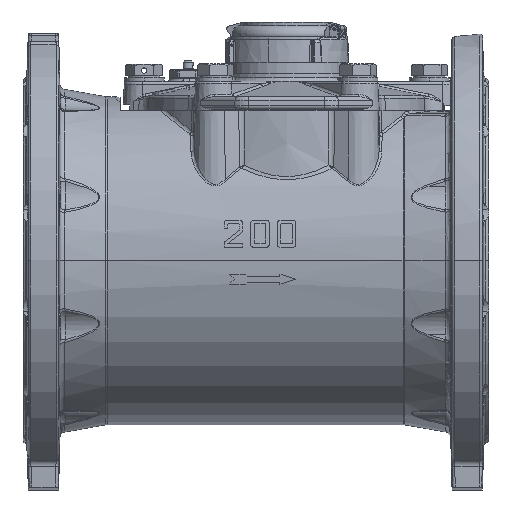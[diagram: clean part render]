
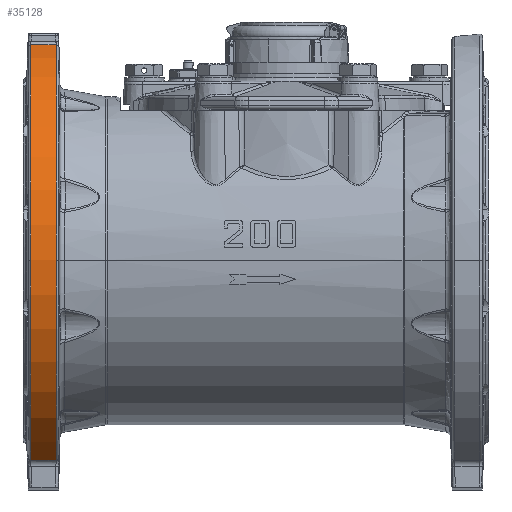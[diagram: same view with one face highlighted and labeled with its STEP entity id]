
A CAD part, top view. The second image highlights one B-rep face of the part: STEP entity #35128.
In plain terms, the highlighted cylindrical face has radius 170 mm (diameter 340 mm), a partial arc.
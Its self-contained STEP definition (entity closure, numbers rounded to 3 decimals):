
#25807 = VERTEX_POINT ( 'NONE', #42924 ) ;
#25809 = VERTEX_POINT ( 'NONE', #42925 ) ;
#25999 = ORIENTED_EDGE ( 'NONE', *, *, #34764, .T. ) ;
#26000 = ORIENTED_EDGE ( 'NONE', *, *, #65392, .T. ) ;
#26001 = ORIENTED_EDGE ( 'NONE', *, *, #34763, .T. ) ;
#26002 = ORIENTED_EDGE ( 'NONE', *, *, #34765, .T. ) ;
#26003 = ORIENTED_EDGE ( 'NONE', *, *, #65397, .T. ) ;
#26004 = ORIENTED_EDGE ( 'NONE', *, *, #34766, .F. ) ;
#34763 = EDGE_CURVE ( 'NONE', #65670, #25809, #47390, .T. ) ;
#34764 = EDGE_CURVE ( 'NONE', #25809, #25807, #74458, .T. ) ;
#34765 = EDGE_CURVE ( 'NONE', #25807, #65676, #47396, .T. ) ;
#34766 = EDGE_CURVE ( 'NONE', #65669, #65675, #74460, .T. ) ;
#35128 = ADVANCED_FACE ( 'NONE', ( #74930 ), #74931, .T. ) ;
#42924 = CARTESIAN_POINT ( 'NONE',  ( -191.95, 161.826, 52.081 ) ) ;
#42925 = CARTESIAN_POINT ( 'NONE',  ( -173.017, 161.826, 52.081 ) ) ;
#47390 = CIRCLE ( 'NONE', #47394, 170. ) ;
#47394 = AXIS2_PLACEMENT_3D ( 'NONE', #48000, #48001, #48002 ) ;
#47396 = CIRCLE ( 'NONE', #47405, 170. ) ;
#47400 = VECTOR ( 'NONE', #48004, 1000. ) ;
#47405 = AXIS2_PLACEMENT_3D ( 'NONE', #48005, #48006, #48007 ) ;
#47410 = VECTOR ( 'NONE', #48009, 1000. ) ;
#48000 = CARTESIAN_POINT ( 'NONE',  ( -173.017, 0., 0. ) ) ;
#48001 = DIRECTION ( 'NONE',  ( -1., 0., 0. ) ) ;
#48002 = DIRECTION ( 'NONE',  ( 0., 0., 1. ) ) ;
#48003 = CARTESIAN_POINT ( 'NONE',  ( -230., 161.826, 52.081 ) ) ;
#48004 = DIRECTION ( 'NONE',  ( -1., 0., 0. ) ) ;
#48005 = CARTESIAN_POINT ( 'NONE',  ( -191.95, 0., 0. ) ) ;
#48006 = DIRECTION ( 'NONE',  ( 1., 0., 0. ) ) ;
#48007 = DIRECTION ( 'NONE',  ( 0., 0., 1. ) ) ;
#48008 = CARTESIAN_POINT ( 'NONE',  ( -230., -149.924, 80.143 ) ) ;
#48009 = DIRECTION ( 'NONE',  ( -1., 0., 0. ) ) ;
#51750 = AXIS2_PLACEMENT_3D ( 'NONE', #53333, #53335, #53337 ) ;
#53333 = CARTESIAN_POINT ( 'NONE',  ( -230., 0., 0. ) ) ;
#53335 = DIRECTION ( 'NONE',  ( 1., 0., 0. ) ) ;
#53337 = DIRECTION ( 'NONE',  ( 0., 0., -1. ) ) ;
#61079 = EDGE_LOOP ( 'NONE', ( #26000, #26001, #25999, #26002, #26003, #26004 ) ) ;
#65392 = EDGE_CURVE ( 'NONE', #65669, #65670, #86590, .T. ) ;
#65397 = EDGE_CURVE ( 'NONE', #65676, #65675, #86595, .T. ) ;
#65669 = VERTEX_POINT ( 'NONE', #71350 ) ;
#65670 = VERTEX_POINT ( 'NONE', #71351 ) ;
#65675 = VERTEX_POINT ( 'NONE', #71356 ) ;
#65676 = VERTEX_POINT ( 'NONE', #71357 ) ;
#69405 = CARTESIAN_POINT ( 'NONE',  ( -173.017, 0., 0. ) ) ;
#69406 = DIRECTION ( 'NONE',  ( -1., 0., 0. ) ) ;
#69407 = DIRECTION ( 'NONE',  ( 0., 0., 1. ) ) ;
#69420 = CARTESIAN_POINT ( 'NONE',  ( -191.95, 0., 0. ) ) ;
#69421 = DIRECTION ( 'NONE',  ( 1., 0., 0. ) ) ;
#69422 = DIRECTION ( 'NONE',  ( 0., 0., 1. ) ) ;
#71350 = CARTESIAN_POINT ( 'NONE',  ( -173.017, -149.924, 80.143 ) ) ;
#71351 = CARTESIAN_POINT ( 'NONE',  ( -173.017, 0., 170. ) ) ;
#71356 = CARTESIAN_POINT ( 'NONE',  ( -191.95, -149.924, 80.143 ) ) ;
#71357 = CARTESIAN_POINT ( 'NONE',  ( -191.95, 0., 170. ) ) ;
#74458 = LINE ( 'NONE', #48003, #47400 ) ;
#74460 = LINE ( 'NONE', #48008, #47410 ) ;
#74930 = FACE_OUTER_BOUND ( 'NONE', #61079, .T. ) ;
#74931 = CYLINDRICAL_SURFACE ( 'NONE', #51750, 170. ) ;
#86590 = CIRCLE ( 'NONE', #86591, 170. ) ;
#86591 = AXIS2_PLACEMENT_3D ( 'NONE', #69405, #69406, #69407 ) ;
#86595 = CIRCLE ( 'NONE', #86599, 170. ) ;
#86599 = AXIS2_PLACEMENT_3D ( 'NONE', #69420, #69421, #69422 ) ;
